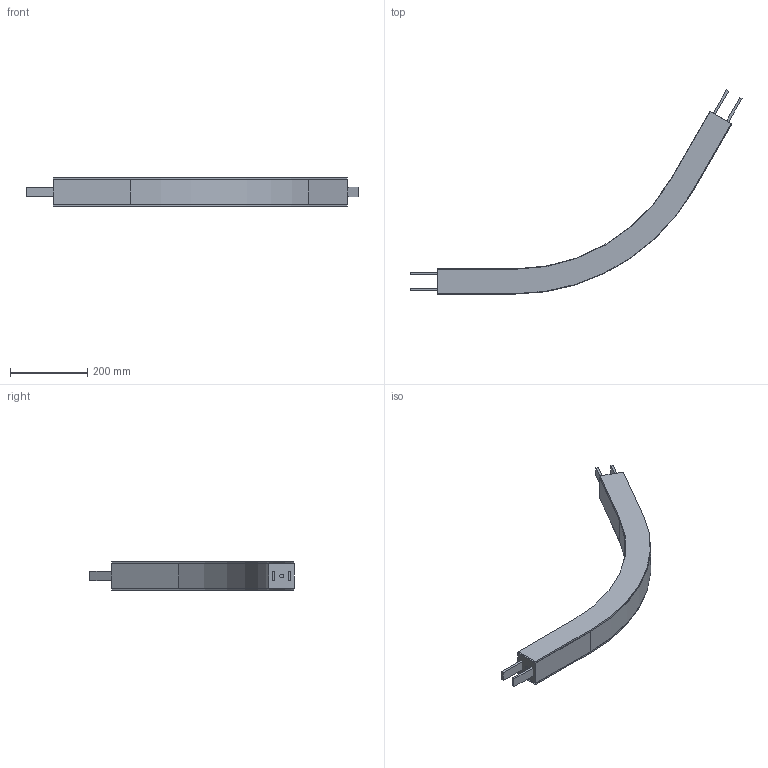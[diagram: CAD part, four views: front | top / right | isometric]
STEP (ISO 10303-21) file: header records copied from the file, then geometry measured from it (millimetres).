
FILE_DESCRIPTION(/* description */ ('Horizontaler Gleitbogen, 60°, R500'),/* implementation_level */ '2;1');
FILE_NAME(/* name */ 'T:\vdz0\Step Daten Website\modulflex FL-System\Horizontale Gleitbögen\FLBP 60R500_43647.stp',/* time_stamp */ '2024-09-03T09:40:27+02:00',/* author */ ('lzb0'),/* organization */ ('modular automation GmbH'),/* preprocessor_version */ 'ST-DEVELOPER v18.1',/* originating_system */ 'Autodesk Inventor 2021',/* authorisation */ '');
FILE_SCHEMA (('AUTOMOTIVE_DESIGN { 1 0 10303 214 3 1 1 }'));
Length unit declared in the file: millimetre
Products named in the file (1): FLBP 60R500
Bounding box: 857.93 x 527.83 x 73 mm (x, y, z)
Volume: 3926170.9 mm3; surface area: 532528.5 mm2
Topology: 5 solids, 9 shells, 52 faces, 126 edges, 84 vertices
Faces by surface type: plane 44, cylinder 8
Full cylindrical faces by diameter (mm): 10 x2
Entity records: 1596 total; most frequent: CARTESIAN_POINT 270, DIRECTION 250, ORIENTED_EDGE 232, EDGE_CURVE 126, LINE 110, VECTOR 110, VERTEX_POINT 84, AXIS2_PLACEMENT_3D 70
